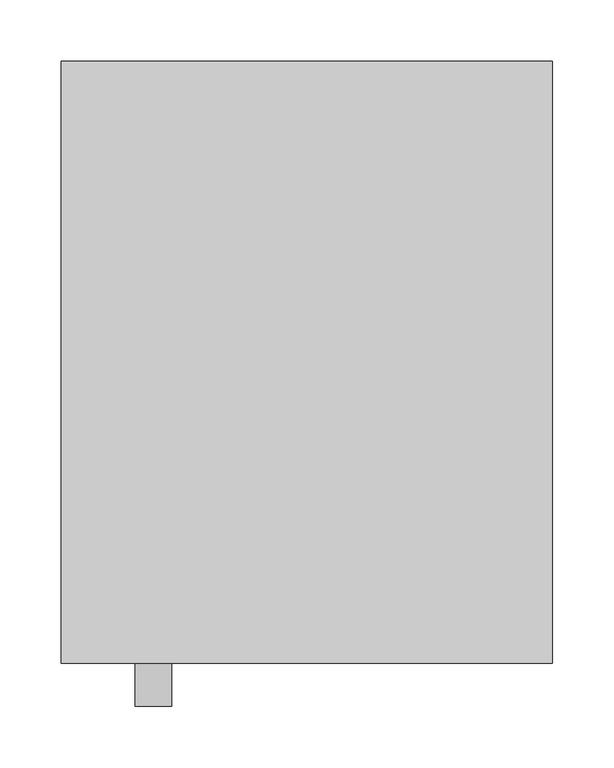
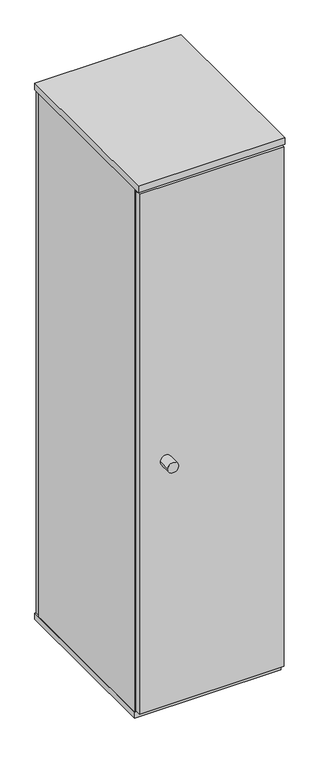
"""IFC4 building model written with IfcOpenShell, lengths in millimetres: furniture geometry, Grid Lockers - 1 Door Complimentary : GRID SINGLE DOOR CABINET 800mm(w) x 490mm(d) x 1556mm(h)."""

from ifc_helpers import new_model, si_unit, point, frame, frame_2d, origin, origin_with_axes, place, context, project, spatial, polyline, circle_curve, trimmed, segment, composite_curve, outline, extrude, source, transform, mapped, element, save


def furniture_7051a054(model_context):
    return source(origin(), model_context, "Body", "SweptSolid", [
        extrude(outline(composite_curve([segment(trimmed(circle_curve(frame_2d((350.0, -50.0)), 15.0), [point((335.0, -50.0))], [point((365.0, -50.0))], False, "CARTESIAN"), True, "CONTINUOUS"), segment(trimmed(circle_curve(frame_2d((350.0, -50.0)), 15.0), [point((365.0, -50.0))], [point((335.0, -50.0))], False, "CARTESIAN"), True, "CONTINUOUS")], self_intersect=False)), origin_with_axes(), (0.0, 0.0, 1.0), 10.0),
        extrude(outline(composite_curve([segment(trimmed(circle_curve(frame_2d((50.0, -50.0)), 15.0), [point((35.0, -50.0))], [point((65.0, -50.0))], False, "CARTESIAN"), True, "CONTINUOUS"), segment(trimmed(circle_curve(frame_2d((50.0, -50.0)), 15.0), [point((65.0, -50.0))], [point((35.0, -50.0))], False, "CARTESIAN"), True, "CONTINUOUS")], self_intersect=False)), origin_with_axes(), (0.0, 0.0, 1.0), 10.0),
        extrude(outline(composite_curve([segment(trimmed(circle_curve(frame_2d((50.0, -440.0)), 15.0), [point((35.0, -440.0))], [point((65.0, -440.0))], False, "CARTESIAN"), True, "CONTINUOUS"), segment(trimmed(circle_curve(frame_2d((50.0, -440.0)), 15.0), [point((65.0, -440.0))], [point((35.0, -440.0))], False, "CARTESIAN"), True, "CONTINUOUS")], self_intersect=False)), origin_with_axes(), (0.0, 0.0, 1.0), 10.0),
        extrude(outline(composite_curve([segment(trimmed(circle_curve(frame_2d((350.0, -440.0)), 15.0), [point((335.0, -440.0))], [point((365.0, -440.0))], False, "CARTESIAN"), True, "CONTINUOUS"), segment(trimmed(circle_curve(frame_2d((350.0, -440.0)), 15.0), [point((365.0, -440.0))], [point((335.0, -440.0))], False, "CARTESIAN"), True, "CONTINUOUS")], self_intersect=False)), origin_with_axes(), (0.0, 0.0, 1.0), 10.0),
        extrude(outline(polyline([(400.0, -472.0), (0.0, -472.0), (0.0, 0.0), (400.0, 0.0), (400.0, -472.0)])), frame((0.0, 0.0, 10.0), z_axis=(0.0, 0.0, 1.0), x_axis=(1.0, 0.0, 0.0)), (0.0, 0.0, 1.0), 18.0),
        extrude(outline(polyline([(400.0, -490.0), (0.0, -490.0), (0.0, 0.0), (400.0, 0.0), (400.0, -490.0)])), frame((0.0, 0.0, 1538.0), z_axis=(0.0, 0.0, 1.0), x_axis=(1.0, 0.0, 0.0)), (0.0, 0.0, 1.0), 18.0),
        extrude(outline(composite_curve([segment(trimmed(circle_curve(frame_2d((740.0, 75.0)), 15.0), [point((740.0, 60.0))], [point((740.0, 90.0))], False, "CARTESIAN"), True, "CONTINUOUS"), segment(trimmed(circle_curve(frame_2d((740.0, 75.0)), 15.0), [point((740.0, 90.0))], [point((740.0, 60.0))], False, "CARTESIAN"), True, "CONTINUOUS")], self_intersect=False)), frame((0.0, -525.0, 0.0), z_axis=(0.0, 1.0, 0.0), x_axis=(0.0, 0.0, 1.0)), (0.0, 0.0, 1.0), 35.0),
        extrude(outline(polyline([(1538.0, 400.0), (1538.0, 0.0), (28.0, 0.0), (28.0, 3.0), (1513.0, 3.0), (1513.0, 397.0), (28.0, 397.0), (28.0, 400.0), (1538.0, 400.0)])), frame((0.0, -472.0, 0.0), z_axis=(0.0, 1.0, 0.0), x_axis=(0.0, 0.0, 1.0)), (0.0, 0.0, 1.0), 454.0),
        extrude(outline(polyline([(397.0, -490.0), (3.0, -490.0), (3.0, -472.0), (397.0, -472.0), (397.0, -490.0)])), frame((0.0, 0.0, 32.0), z_axis=(0.0, 0.0, 1.0), x_axis=(1.0, 0.0, 0.0)), (0.0, 0.0, 1.0), 1500.0),
        extrude(outline(polyline([(397.0, 0.0), (397.0, -18.0), (3.0, -18.0), (3.0, 0.0), (397.0, 0.0)])), frame((0.0, 0.0, 18.0), z_axis=(0.0, 0.0, 1.0), x_axis=(1.0, 0.0, 0.0)), (0.0, 0.0, 1.0), 1514.0),
    ])


if __name__ == "__main__":
    model = new_model("IFC4")
    model_context = context("Model", 3, world=origin())
    ifc_project = project(units=[si_unit("LENGTHUNIT", "METRE", prefix="MILLI")], contexts=[model_context])
    site = spatial("IfcSite", under=ifc_project)
    building = spatial("IfcBuilding", under=site)
    placement = place(None, origin())
    furniture_shape = furniture_7051a054(model_context)
    element("IfcFurniture", 1, ObjectType="Grid Lockers - 1 Door Complimentary : GRID SINGLE DOOR CABINET 800mm(w) x 490mm(d) x 1556mm(h)", at=placement, inside=building, context=model_context, shape_type="MappedRepresentation", body=[
        mapped(furniture_shape, transform((0.0, 0.0, 0.0), x_axis=(1.0, 0.0, 0.0), y_axis=(0.0, 1.0, 0.0), z_axis=(0.0, 0.0, 1.0))),
    ])
    save(model, "model.ifc")
